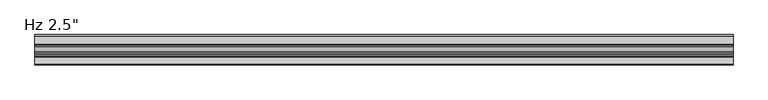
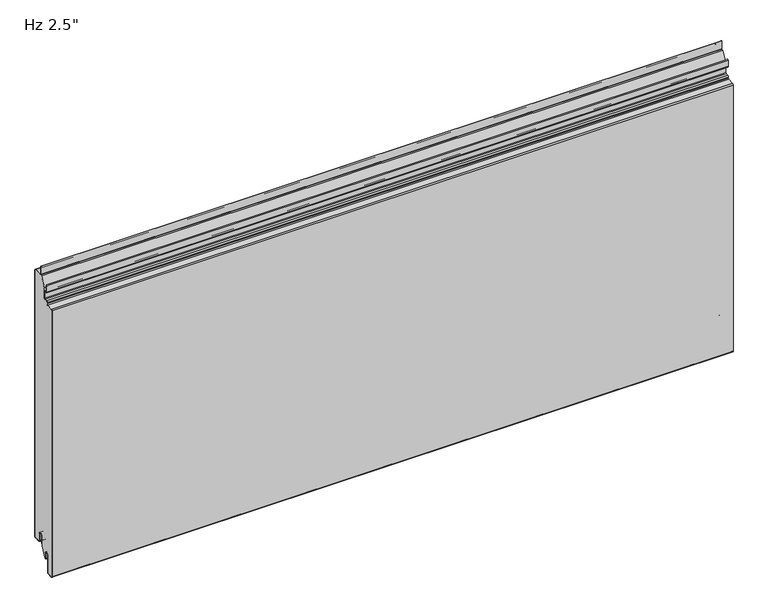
"""IFC4 building model written with IfcOpenShell, lengths in millimetres: plate geometry."""

from ifc_helpers import new_model, si_unit, point, frame, frame_2d, origin, place, context, project, spatial, polyline, circle_curve, ellipse_curve, trimmed, segment, composite_curve, outline, extrude, source, transform, mapped, element, save
from ifc_brep_helpers import plane_surface, cylinder_surface, revolved_surface, extruded_surface, advanced_brep


def plate_b7dfedd1(model_context):
    return source(origin(), model_context, "Body", "SolidModel", [
        extrude(outline(composite_curve([segment(trimmed(circle_curve(frame_2d((-21.43125, 19.05)), 4.96875), [point((-16.4625, 19.05))], [point((-26.4, 19.05))], True, "CARTESIAN"), True, "CONTINUOUS"), segment(polyline([(-26.4, 19.05), (-26.4, -3.1323422), (-36.5326309, -23.01875), (-38.1, -23.01875), (-38.1, -13.5080174), (-38.89375, -13.5080174), (-38.6875, -11.9205174)]), True, "CONTINUOUS"), segment(trimmed(circle_curve(frame_2d((-43.65625, -11.9205174)), 4.96875), [point((-38.6875, -11.9205174))], [point((-48.625, -11.9205174))], True, "CARTESIAN"), True, "CONTINUOUS"), segment(polyline([(-48.625, -11.9205174), (-48.625, -50.1038221)]), True, "CONTINUOUS"), segment(trimmed(circle_curve(frame_2d((-50.00625, -50.1038221)), 1.38125), [point((-48.625, -50.1038221))], [point((-49.933961, -51.4831791))], False, "CARTESIAN"), True, "CONTINUOUS"), segment(polyline([(-49.933961, -51.4831791), (-61.046461, -52.0655606)]), True, "CONTINUOUS"), segment(trimmed(circle_curve(frame_2d((-61.11875, -50.6862035)), 1.38125), [point((-61.046461, -52.0655606))], [point((-62.5, -50.6862035))], False, "CARTESIAN"), True, "CONTINUOUS"), segment(polyline([(-62.5, -50.6862035), (-62.5, 552.5572607)]), True, "CONTINUOUS"), segment(trimmed(circle_curve(frame_2d((-61.11875, 552.5572607)), 1.38125), [point((-62.5, 552.5572607))], [point((-61.191039, 553.9366177))], False, "CARTESIAN"), True, "CONTINUOUS"), segment(polyline([(-61.191039, 553.9366177), (-47.4895807, 554.6546807)]), True, "CONTINUOUS"), segment(trimmed(circle_curve(frame_2d((-47.625, 557.2386347)), 2.5875), [point((-47.4895807, 554.6546807))], [point((-45.0375, 557.2386347))], True, "CARTESIAN"), True, "CONTINUOUS"), segment(polyline([(-45.0375, 557.2386347), (-45.0375, 560.2824411)]), True, "CONTINUOUS"), segment(trimmed(circle_curve(frame_2d((-43.65625, 560.2824411)), 1.38125), [point((-45.0375, 560.2824411))], [point((-43.728539, 561.6617981))], False, "CARTESIAN"), True, "CONTINUOUS"), segment(polyline([(-43.728539, 561.6617981), (-37.9645807, 561.9638744)]), True, "CONTINUOUS"), segment(trimmed(circle_curve(frame_2d((-38.1, 564.5478283)), 2.5875), [point((-37.9645807, 561.9638744))], [point((-35.5125, 564.5478283))], True, "CARTESIAN"), True, "CONTINUOUS"), segment(polyline([(-35.5125, 564.5478283), (-35.5125, 586.9892934), (-24.9057308, 607.80625), (-2.38125, 607.80625)]), True, "CONTINUOUS"), segment(trimmed(circle_curve(frame_2d((-2.38125, 606.425)), 1.38125), [point((-2.38125, 607.80625))], [point((-1.0, 606.425))], False, "CARTESIAN"), True, "CONTINUOUS"), segment(polyline([(-1.0, 606.425), (-1.0, 3.175)]), True, "CONTINUOUS"), segment(trimmed(circle_curve(frame_2d((-2.38125, 3.175)), 1.38125), [point((-1.0, 3.175))], [point((-2.38125, 1.79375))], False, "CARTESIAN"), True, "CONTINUOUS"), segment(polyline([(-2.38125, 1.79375), (-15.08125, 1.79375)]), True, "CONTINUOUS"), segment(trimmed(circle_curve(frame_2d((-15.08125, 3.175)), 1.38125), [point((-15.08125, 1.79375))], [point((-16.4625, 3.175))], False, "CARTESIAN"), True, "CONTINUOUS"), segment(polyline([(-16.4625, 3.175), (-16.4625, 19.05)]), True, "CONTINUOUS")], self_intersect=False)), frame((-730.0, 0.0, 0.0), z_axis=(1.0, 0.0, 0.0), x_axis=(0.0, 1.0, 0.0)), (0.0, 0.0, 1.0), 1460.0),
        extrude(outline(composite_curve([segment(polyline([(-25.4, 0.79375), (-26.4, 0.79375), (-26.4, 19.05)]), True, "CONTINUOUS"), segment(trimmed(circle_curve(frame_2d((-21.43125, 19.05)), 4.96875), [point((-26.4, 19.05))], [point((-16.4625, 19.05))], False, "CARTESIAN"), True, "CONTINUOUS"), segment(polyline([(-16.4625, 19.05), (-16.4625, 3.175)]), True, "CONTINUOUS"), segment(trimmed(circle_curve(frame_2d((-15.08125, 3.175)), 1.38125), [point((-16.4625, 3.175))], [point((-15.08125, 1.79375))], True, "CARTESIAN"), True, "CONTINUOUS"), segment(polyline([(-15.08125, 1.79375), (-2.38125, 1.79375)]), True, "CONTINUOUS"), segment(trimmed(circle_curve(frame_2d((-2.38125, 3.175)), 1.38125), [point((-2.38125, 1.79375))], [point((-1.0, 3.175))], True, "CARTESIAN"), True, "CONTINUOUS"), segment(polyline([(-1.0, 3.175), (-1.0, 606.425)]), True, "CONTINUOUS"), segment(trimmed(circle_curve(frame_2d((-2.38125, 606.425)), 1.38125), [point((-1.0, 606.425))], [point((-2.38125, 607.80625))], True, "CARTESIAN"), True, "CONTINUOUS"), segment(polyline([(-2.38125, 607.80625), (-19.446875, 607.80625)]), True, "CONTINUOUS"), segment(trimmed(circle_curve(frame_2d((-19.446875, 610.39375)), 2.5875), [point((-19.446875, 607.80625))], [point((-22.034375, 610.39375))], False, "CARTESIAN"), True, "CONTINUOUS"), segment(polyline([(-22.034375, 610.39375), (-22.034375, 627.85625), (-21.034375, 627.85625), (-21.034375, 610.39375)]), True, "CONTINUOUS"), segment(trimmed(circle_curve(frame_2d((-19.446875, 610.39375)), 1.5875), [point((-21.034375, 610.39375))], [point((-19.446875, 608.80625))], True, "CARTESIAN"), True, "CONTINUOUS"), segment(polyline([(-19.446875, 608.80625), (-2.38125, 608.80625)]), True, "CONTINUOUS"), segment(trimmed(circle_curve(frame_2d((-2.38125, 606.425)), 2.38125), [point((-2.38125, 608.80625))], [point((0.0, 606.425))], False, "CARTESIAN"), True, "CONTINUOUS"), segment(polyline([(0.0, 606.425), (0.0, 3.175)]), True, "CONTINUOUS"), segment(trimmed(circle_curve(frame_2d((-2.38125, 3.175)), 2.38125), [point((0.0, 3.175))], [point((-2.38125, 0.79375))], False, "CARTESIAN"), True, "CONTINUOUS"), segment(polyline([(-2.38125, 0.79375), (-15.08125, 0.79375)]), True, "CONTINUOUS"), segment(trimmed(circle_curve(frame_2d((-15.08125, 3.175)), 2.38125), [point((-15.08125, 0.79375))], [point((-17.4625, 3.175))], False, "CARTESIAN"), True, "CONTINUOUS"), segment(polyline([(-17.4625, 3.175), (-17.4625, 19.05)]), True, "CONTINUOUS"), segment(trimmed(circle_curve(frame_2d((-21.43125, 19.05)), 3.96875), [point((-17.4625, 19.05))], [point((-25.4, 19.05))], True, "CARTESIAN"), True, "CONTINUOUS"), segment(polyline([(-25.4, 19.05), (-25.4, 0.79375)]), True, "CONTINUOUS")], self_intersect=False)), frame((-730.0, 0.0, 0.0), z_axis=(1.0, 0.0, 0.0), x_axis=(0.0, 1.0, 0.0)), (0.0, 0.0, 1.0), 1460.0),
        advanced_brep(
        [(-730.0, -38.1, -23.2314549), (-730.0, -39.6875, -23.2314549), (-730.0, -39.6875, -11.9205174), (-730.0, -47.625, -11.9205174), (-730.0, -47.625, -50.1038221), (-730.0, -49.881625, -52.4818086), (-730.0, -60.994125, -53.0641901), (-730.0, -63.5, -50.6862035), (-730.0, -63.5, 552.5572607), (-730.0, -61.243375, 554.9352473), (-730.0, -47.5419167, 555.6533103), (-730.0, -46.0375, 557.2386347), (-730.0, -46.0375, 560.2824411), (-730.0, -43.780875, 562.6604276), (-730.0, -38.0169167, 562.9625039), (-730.0, -36.5125, 564.5478283), (-730.0, -36.5125, 579.4232326), (-730.0, -38.1, 581.0107326), (-730.0, -42.2671875, 581.0107326), (-730.0, -44.6484375, 583.3919826), (-730.0, -44.6484375, 597.8836032), (-730.0, -42.8546875, 597.8836032), (-730.0, -42.8546875, 588.1544826), (-730.0, -43.6484375, 588.1544826), (-730.0, -43.6484375, 583.3919826), (-730.0, -42.2671875, 582.0107326), (-730.0, -38.1, 582.0107326), (-730.0, -35.5125, 579.4232326), (-730.0, -35.5125, 564.5478283), (-730.0, -37.9645807, 561.9638744), (-730.0, -43.728539, 561.6617981), (-730.0, -45.0375, 560.2824411), (-730.0, -45.0375, 557.2386347), (-730.0, -47.4895807, 554.6546807), (-730.0, -61.191039, 553.9366177), (-730.0, -62.5, 552.5572607), (-730.0, -62.5, -50.6862035), (-730.0, -61.046461, -52.0655606), (-730.0, -49.933961, -51.4831791), (-730.0, -48.625, -50.1038221), (-730.0, -48.625, -11.9205174), (-730.0, -38.6875, -11.9205174), (-730.0, -38.89375, -13.5080174), (-730.0, -38.1, -13.5080174), (730.0, -38.1, -23.2314549), (730.0, -38.1, -13.5080174), (730.0, -38.89375, -13.5080174), (730.0, -38.6875, -11.9205174), (730.0, -48.625, -11.9205174), (730.0, -48.625, -50.1038221), (730.0, -49.933961, -51.4831791), (730.0, -61.046461, -52.0655606), (730.0, -62.5, -50.6862035), (730.0, -62.5, 552.5572607), (730.0, -61.191039, 553.9366177), (730.0, -47.4895807, 554.6546807), (730.0, -45.0375, 557.2386347), (730.0, -45.0375, 560.2824411), (730.0, -43.728539, 561.6617981), (730.0, -37.9645807, 561.9638744), (730.0, -35.5125, 564.5478283), (730.0, -35.5125, 579.4232326), (730.0, -38.1, 582.0107326), (730.0, -42.2671875, 582.0107326), (730.0, -43.6484375, 583.3919826), (730.0, -43.6484375, 588.1544826), (730.0, -42.8546875, 588.1544826), (730.0, -42.8546875, 597.8836032), (730.0, -44.6484375, 597.8836032), (730.0, -44.6484375, 583.3919826), (730.0, -42.2671875, 581.0107326), (730.0, -38.1, 581.0107326), (730.0, -36.5125, 579.4232326), (730.0, -36.5125, 564.5478283), (730.0, -38.0169167, 562.9625039), (730.0, -43.780875, 562.6604276), (730.0, -46.0375, 560.2824411), (730.0, -46.0375, 557.2386347), (730.0, -47.5419167, 555.6533103), (730.0, -61.243375, 554.9352473), (730.0, -63.5, 552.5572607), (730.0, -63.5, -50.6862035), (730.0, -60.994125, -53.0641901), (730.0, -49.881625, -52.4818086), (730.0, -47.625, -50.1038221), (730.0, -47.625, -11.9205174), (730.0, -39.6875, -11.9205174), (730.0, -39.6875, -23.2314549)],
        [
            (0, 1, circle_curve(frame((-730.0, -38.89375, -23.2314549), z_axis=(-1.0, 0.0, 0.0), x_axis=(0.0, 0.0, 1.0)), 0.79375)),
            (1, 2),
            (2, 3, circle_curve(frame((-730.0, -43.65625, -11.9205174), z_axis=(1.0, 0.0, 0.0), x_axis=(0.0, 0.0, 1.0)), 3.96875)),
            (3, 4),
            (4, 5, circle_curve(frame((-730.0, -50.00625, -50.1038221), z_axis=(-1.0, 0.0, 0.0), x_axis=(0.0, 0.0, 1.0)), 2.38125)),
            (5, 6),
            (6, 7, circle_curve(frame((-730.0, -61.11875, -50.6862035), z_axis=(-1.0, 0.0, 0.0), x_axis=(0.0, 0.0, 1.0)), 2.38125)),
            (7, 8),
            (8, 9, circle_curve(frame((-730.0, -61.11875, 552.5572607), z_axis=(-1.0, 0.0, 0.0), x_axis=(0.0, 0.0, 1.0)), 2.38125)),
            (9, 10),
            (10, 11, circle_curve(frame((-730.0, -47.625, 557.2386347), z_axis=(1.0, 0.0, 0.0), x_axis=(0.0, 0.0, 1.0)), 1.5875)),
            (11, 12),
            (12, 13, circle_curve(frame((-730.0, -43.65625, 560.2824411), z_axis=(-1.0, 0.0, 0.0), x_axis=(0.0, 0.0, 1.0)), 2.38125)),
            (13, 14),
            (14, 15, circle_curve(frame((-730.0, -38.1, 564.5478283), z_axis=(1.0, 0.0, 0.0), x_axis=(0.0, 0.0, 1.0)), 1.5875)),
            (15, 16),
            (16, 17, circle_curve(frame((-730.0, -38.1, 579.4232326), z_axis=(1.0, 0.0, 0.0), x_axis=(0.0, 0.0, 1.0)), 1.5875)),
            (17, 18),
            (18, 19, circle_curve(frame((-730.0, -42.2671875, 583.3919826), z_axis=(-1.0, 0.0, 0.0), x_axis=(0.0, 0.0, 1.0)), 2.38125)),
            (19, 20),
            (20, 21, ellipse_curve(frame((-730.0, -43.7515625, 597.8836032), z_axis=(-1.0, 0.0, 0.0), x_axis=(0.0, 1.0, 0.0)), 0.896875, 0.7852275)),
            (21, 22),
            (22, 23),
            (23, 24),
            (24, 25, circle_curve(frame((-730.0, -42.2671875, 583.3919826), z_axis=(1.0, 0.0, 0.0), x_axis=(0.0, 0.0, 1.0)), 1.38125)),
            (25, 26),
            (26, 27, circle_curve(frame((-730.0, -38.1, 579.4232326), z_axis=(-1.0, 0.0, 0.0), x_axis=(0.0, 0.0, 1.0)), 2.5875)),
            (27, 28),
            (28, 29, circle_curve(frame((-730.0, -38.1, 564.5478283), z_axis=(-1.0, 0.0, 0.0), x_axis=(0.0, 0.0, 1.0)), 2.5875)),
            (29, 30),
            (30, 31, circle_curve(frame((-730.0, -43.65625, 560.2824411), z_axis=(1.0, 0.0, 0.0), x_axis=(0.0, 0.0, 1.0)), 1.38125)),
            (31, 32),
            (32, 33, circle_curve(frame((-730.0, -47.625, 557.2386347), z_axis=(-1.0, 0.0, 0.0), x_axis=(0.0, 0.0, 1.0)), 2.5875)),
            (33, 34),
            (34, 35, circle_curve(frame((-730.0, -61.11875, 552.5572607), z_axis=(1.0, 0.0, 0.0), x_axis=(0.0, 0.0, 1.0)), 1.38125)),
            (35, 36),
            (36, 37, circle_curve(frame((-730.0, -61.11875, -50.6862035), z_axis=(1.0, 0.0, 0.0), x_axis=(0.0, 0.0, 1.0)), 1.38125)),
            (37, 38),
            (38, 39, circle_curve(frame((-730.0, -50.00625, -50.1038221), z_axis=(1.0, 0.0, 0.0), x_axis=(0.0, 0.0, 1.0)), 1.38125)),
            (39, 40),
            (40, 41, circle_curve(frame((-730.0, -43.65625, -11.9205174), z_axis=(-1.0, 0.0, 0.0), x_axis=(0.0, 0.0, 1.0)), 4.96875)),
            (41, 42),
            (42, 43),
            (43, 0),
            (44, 45),
            (45, 46),
            (46, 47),
            (47, 48, circle_curve(frame((730.0, -43.65625, -11.9205174), z_axis=(1.0, 0.0, 0.0), x_axis=(0.0, 0.0, 1.0)), 4.96875)),
            (48, 49),
            (49, 50, circle_curve(frame((730.0, -50.00625, -50.1038221), z_axis=(-1.0, 0.0, 0.0), x_axis=(0.0, 0.0, 1.0)), 1.38125)),
            (50, 51),
            (51, 52, circle_curve(frame((730.0, -61.11875, -50.6862035), z_axis=(-1.0, 0.0, 0.0), x_axis=(0.0, 0.0, 1.0)), 1.38125)),
            (52, 53),
            (53, 54, circle_curve(frame((730.0, -61.11875, 552.5572607), z_axis=(-1.0, 0.0, 0.0), x_axis=(0.0, 0.0, 1.0)), 1.38125)),
            (54, 55),
            (55, 56, circle_curve(frame((730.0, -47.625, 557.2386347), z_axis=(1.0, 0.0, 0.0), x_axis=(0.0, 0.0, 1.0)), 2.5875)),
            (56, 57),
            (57, 58, circle_curve(frame((730.0, -43.65625, 560.2824411), z_axis=(-1.0, 0.0, 0.0), x_axis=(0.0, 0.0, 1.0)), 1.38125)),
            (58, 59),
            (59, 60, circle_curve(frame((730.0, -38.1, 564.5478283), z_axis=(1.0, 0.0, 0.0), x_axis=(0.0, 0.0, 1.0)), 2.5875)),
            (60, 61),
            (61, 62, circle_curve(frame((730.0, -38.1, 579.4232326), z_axis=(1.0, 0.0, 0.0), x_axis=(0.0, 0.0, 1.0)), 2.5875)),
            (62, 63),
            (63, 64, circle_curve(frame((730.0, -42.2671875, 583.3919826), z_axis=(-1.0, 0.0, 0.0), x_axis=(0.0, 0.0, 1.0)), 1.38125)),
            (64, 65),
            (65, 66),
            (66, 67),
            (67, 68, ellipse_curve(frame((730.0, -43.7515625, 597.8836032), z_axis=(1.0, 0.0, 0.0), x_axis=(0.0, 1.0, 0.0)), 0.896875, 0.7852275)),
            (68, 69),
            (69, 70, circle_curve(frame((730.0, -42.2671875, 583.3919826), z_axis=(1.0, 0.0, 0.0), x_axis=(0.0, 0.0, 1.0)), 2.38125)),
            (70, 71),
            (71, 72, circle_curve(frame((730.0, -38.1, 579.4232326), z_axis=(-1.0, 0.0, 0.0), x_axis=(0.0, 0.0, 1.0)), 1.5875)),
            (72, 73),
            (73, 74, circle_curve(frame((730.0, -38.1, 564.5478283), z_axis=(-1.0, 0.0, 0.0), x_axis=(0.0, 0.0, 1.0)), 1.5875)),
            (74, 75),
            (75, 76, circle_curve(frame((730.0, -43.65625, 560.2824411), z_axis=(1.0, 0.0, 0.0), x_axis=(0.0, 0.0, 1.0)), 2.38125)),
            (76, 77),
            (77, 78, circle_curve(frame((730.0, -47.625, 557.2386347), z_axis=(-1.0, 0.0, 0.0), x_axis=(0.0, 0.0, 1.0)), 1.5875)),
            (78, 79),
            (79, 80, circle_curve(frame((730.0, -61.11875, 552.5572607), z_axis=(1.0, 0.0, 0.0), x_axis=(0.0, 0.0, 1.0)), 2.38125)),
            (80, 81),
            (81, 82, circle_curve(frame((730.0, -61.11875, -50.6862035), z_axis=(1.0, 0.0, 0.0), x_axis=(0.0, 0.0, 1.0)), 2.38125)),
            (82, 83),
            (83, 84, circle_curve(frame((730.0, -50.00625, -50.1038221), z_axis=(1.0, 0.0, 0.0), x_axis=(0.0, 0.0, 1.0)), 2.38125)),
            (84, 85),
            (85, 86, circle_curve(frame((730.0, -43.65625, -11.9205174), z_axis=(-1.0, 0.0, 0.0), x_axis=(0.0, 0.0, 1.0)), 3.96875)),
            (86, 87),
            (87, 44, circle_curve(frame((730.0, -38.89375, -23.2314549), z_axis=(1.0, 0.0, 0.0), x_axis=(0.0, 0.0, 1.0)), 0.79375)),
            (23, 65),
            (64, 24),
            (28, 60),
            (59, 29),
            (58, 30),
            (57, 31),
            (56, 32),
            (55, 33),
            (54, 34),
            (37, 51),
            (50, 38),
            (49, 39),
            (48, 40),
            (43, 45),
            (44, 0),
            (87, 1),
            (86, 2),
            (85, 3),
            (84, 4),
            (83, 5),
            (82, 6),
            (9, 79),
            (78, 10),
            (77, 11),
            (76, 12),
            (75, 13),
            (74, 14),
            (73, 15),
            (72, 16),
            (71, 17),
            (70, 18),
            (69, 19),
            (27, 61),
            (26, 62),
            (25, 63),
            (21, 67),
            (66, 22),
            (20, 68),
            (41, 47),
            (46, 42),
            (53, 35),
            (52, 36),
            (81, 7),
            (80, 8),
        ],
        [
            plane_surface(frame((-730.0, -63.5, 304.8), z_axis=(-1.0, 0.0, 0.0), x_axis=(0.0, -1.0, 0.0))),
            plane_surface(frame((730.0, -63.5, 304.8), z_axis=(1.0, 0.0, 0.0), x_axis=(0.0, -1.0, 0.0))),
            plane_surface(frame((-730.0, -43.6484375, 583.3919826), z_axis=(0.0, 1.0, 0.0), x_axis=(1.0, 0.0, 0.0))),
            cylinder_surface(frame((-730.0, -38.1, 564.5478283), z_axis=(-1.0, 0.0, 0.0), x_axis=(0.0, 0.0, 1.0)), 2.5875),
            plane_surface(frame((-730.0, -43.728539, 561.6617981), z_axis=(0.0, 0.0523359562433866, -0.9986295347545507), x_axis=(1.0, 0.0, 0.0))),
            revolved_surface(polyline([(730.0, -43.65625, 561.6636911), (-730.0, -43.65625, 561.6636911)]), (-730.0, -43.65625, 560.2824411), (1.0, 0.0, 0.0)),
            plane_surface(frame((-730.0, -45.0375, 557.2386347), z_axis=(0.0, 1.0, 0.0), x_axis=(1.0, 0.0, 0.0))),
            cylinder_surface(frame((-730.0, -47.625, 557.2386347), z_axis=(-1.0, 0.0, 0.0), x_axis=(0.0, 0.0, 1.0)), 2.5875),
            plane_surface(frame((-730.0, -61.191039, 553.9366177), z_axis=(0.0, 0.05233595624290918, -0.9986295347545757), x_axis=(1.0, 0.0, 0.0))),
            plane_surface(frame((-730.0, -49.933961, -51.4831791), z_axis=(0.0, -0.05233595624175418, 0.9986295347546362), x_axis=(1.0, 0.0, 0.0))),
            revolved_surface(polyline([(730.0, -50.00625, -48.7225721), (-730.0, -50.00625, -48.7225721)]), (-730.0, -50.00625, -50.1038221), (1.0, 0.0, 0.0)),
            plane_surface(frame((-730.0, -48.625, -11.9205174), z_axis=(0.0, -1.0, 0.0), x_axis=(1.0, 0.0, 0.0))),
            plane_surface(frame((-730.0, -38.1, -23.2314549), z_axis=(0.0, 1.0, 0.0), x_axis=(1.0, 0.0, 0.0))),
            cylinder_surface(frame((-730.0, -38.89375, -23.2314549), z_axis=(-1.0, 0.0, 0.0), x_axis=(0.0, 0.0, 1.0)), 0.79375),
            plane_surface(frame((-730.0, -39.6875, -11.9205174), z_axis=(0.0, -1.0, 0.0), x_axis=(1.0, 0.0, 0.0))),
            revolved_surface(polyline([(730.0, -43.65625, -7.9517674), (-730.0, -43.65625, -7.9517674)]), (-730.0, -43.65625, -11.9205174), (1.0, 0.0, 0.0)),
            plane_surface(frame((-730.0, -47.625, -50.1038221), z_axis=(0.0, 1.0, 0.0), x_axis=(1.0, 0.0, 0.0))),
            cylinder_surface(frame((-730.0, -50.00625, -50.1038221), z_axis=(-1.0, 0.0, 0.0), x_axis=(0.0, 0.0, 1.0)), 2.38125),
            plane_surface(frame((-730.0, -60.994125, -53.0641901), z_axis=(0.0, 0.05233595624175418, -0.9986295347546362), x_axis=(1.0, 0.0, 0.0))),
            plane_surface(frame((-730.0, -47.5419167, 555.6533103), z_axis=(0.0, -0.052335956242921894, 0.998629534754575), x_axis=(1.0, 0.0, 0.0))),
            revolved_surface(polyline([(730.0, -47.625, 558.8261347), (-730.0, -47.625, 558.8261347)]), (-730.0, -47.625, 557.2386347), (1.0, 0.0, 0.0)),
            plane_surface(frame((-730.0, -46.0375, 560.2824411), z_axis=(0.0, -1.0, 0.0), x_axis=(1.0, 0.0, 0.0))),
            cylinder_surface(frame((-730.0, -43.65625, 560.2824411), z_axis=(-1.0, 0.0, 0.0), x_axis=(0.0, 0.0, 1.0)), 2.38125),
            plane_surface(frame((-730.0, -38.0169167, 562.9625039), z_axis=(0.0, -0.05233595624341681, 0.9986295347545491), x_axis=(1.0, 0.0, 0.0))),
            revolved_surface(polyline([(730.0, -38.1, 566.1353283), (-730.0, -38.1, 566.1353283)]), (-730.0, -38.1, 564.5478283), (1.0, 0.0, 0.0)),
            plane_surface(frame((-730.0, -36.5125, 579.4232326), z_axis=(0.0, -1.0, 0.0), x_axis=(1.0, 0.0, 0.0))),
            revolved_surface(polyline([(730.0, -38.1, 581.0107326), (-730.0, -38.1, 581.0107326)]), (-730.0, -38.1, 579.4232326), (1.0, 0.0, 0.0)),
            plane_surface(frame((-730.0, -42.2671875, 581.0107326), z_axis=(0.0, 0.0, -1.0), x_axis=(1.0, 0.0, 0.0))),
            cylinder_surface(frame((-730.0, -42.2671875, 583.3919826), z_axis=(-1.0, 0.0, 0.0), x_axis=(0.0, 0.0, 1.0)), 2.38125),
            plane_surface(frame((-730.0, -35.5125, 564.5478283), z_axis=(0.0, 1.0, 0.0), x_axis=(1.0, 0.0, 0.0))),
            cylinder_surface(frame((-730.0, -38.1, 579.4232326), z_axis=(-1.0, 0.0, 0.0), x_axis=(0.0, 0.0, 1.0)), 2.5875),
            plane_surface(frame((-730.0, -38.1, 582.0107326), z_axis=(0.0, 0.0, 1.0), x_axis=(1.0, 0.0, 0.0))),
            revolved_surface(polyline([(730.0, -42.2671875, 584.7732326), (-730.0, -42.2671875, 584.7732326)]), (-730.0, -42.2671875, 583.3919826), (1.0, 0.0, 0.0)),
            plane_surface(frame((-730.0, -42.8546875, 588.1544826), z_axis=(0.0, 1.0, 0.0), x_axis=(1.0, 0.0, 0.0))),
            extruded_surface(trimmed(ellipse_curve(frame((-730.0, -43.7515625, 597.8836032), z_axis=(1.0, 0.0, 0.0), x_axis=(0.0, 1.0, 0.0)), 0.896875, 0.7852275), [point((-730.0, -42.8546875, 597.8836032))], [point((-730.0, -44.6484375, 597.8836032))], True, "CARTESIAN"), (1460.0, 0.0, 0.0), 1460.0),
            plane_surface(frame((-730.0, -38.89375, -13.5080174), z_axis=(0.0, 0.9916655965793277, -0.12883844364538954), x_axis=(1.0, 0.0, 0.0))),
            cylinder_surface(frame((-730.0, -43.65625, -11.9205174), z_axis=(-1.0, 0.0, 0.0), x_axis=(0.0, 0.0, 1.0)), 4.96875),
            plane_surface(frame((-730.0, -38.1, -13.5080174), z_axis=(0.0, 0.0, 1.0), x_axis=(1.0, 0.0, 0.0))),
            plane_surface(frame((-730.0, -43.6484375, 588.1544826), z_axis=(0.0, 0.0, -1.0), x_axis=(1.0, 0.0, 0.0))),
            revolved_surface(polyline([(730.0, -61.11875, 553.9385107), (-730.0, -61.11875, 553.9385107)]), (-730.0, -61.11875, 552.5572607), (1.0, 0.0, 0.0)),
            plane_surface(frame((-730.0, -62.5, -50.6862035), z_axis=(0.0, 1.0, 0.0), x_axis=(1.0, 0.0, 0.0))),
            revolved_surface(polyline([(730.0, -61.11875, -49.304953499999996), (-730.0, -61.11875, -49.304953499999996)]), (-730.0, -61.11875, -50.6862035), (1.0, 0.0, 0.0)),
            cylinder_surface(frame((-730.0, -61.11875, -50.6862035), z_axis=(-1.0, 0.0, 0.0), x_axis=(0.0, 0.0, 1.0)), 2.38125),
            plane_surface(frame((-730.0, -63.5, 552.5572607), z_axis=(0.0, -1.0, 0.0), x_axis=(1.0, 0.0, 0.0))),
            cylinder_surface(frame((-730.0, -61.11875, 552.5572607), z_axis=(-1.0, 0.0, 0.0), x_axis=(0.0, 0.0, 1.0)), 2.38125),
            plane_surface(frame((-730.0, -44.6484375, 597.8836032), z_axis=(0.0, -1.0, 0.0), x_axis=(1.0, 0.0, 0.0))),
        ],
        [
            (0, [[1, 2, 3, 4, 5, 6, 7, 8, 9, 10, 11, 12, 13, 14, 15, 16, 17, 18, 19, 20, 21, 22, 23, 24, 25, 26, 27, 28, 29, 30, 31, 32, 33, 34, 35, 36, 37, 38, 39, 40, 41, 42, 43, 44]]),
            (1, [[45, 46, 47, 48, 49, 50, 51, 52, 53, 54, 55, 56, 57, 58, 59, 60, 61, 62, 63, 64, 65, 66, 67, 68, 69, 70, 71, 72, 73, 74, 75, 76, 77, 78, 79, 80, 81, 82, 83, 84, 85, 86, 87, 88]]),
            (2, [[89, -65, 90, -24]]),
            (3, [[91, -60, 92, -29]]),
            (4, [[-92, -59, 93, -30]]),
            (5, [[-93, -58, 94, -31]]),
            (6, [[-94, -57, 95, -32]]),
            (7, [[-95, -56, 96, -33]]),
            (8, [[-96, -55, 97, -34]]),
            (9, [[98, -51, 99, -38]]),
            (10, [[-99, -50, 100, -39]]),
            (11, [[-100, -49, 101, -40]]),
            (12, [[102, -45, 103, -44]]),
            (13, [[-103, -88, 104, -1]]),
            (14, [[-104, -87, 105, -2]]),
            (15, [[-105, -86, 106, -3]]),
            (16, [[-106, -85, 107, -4]]),
            (17, [[-107, -84, 108, -5]]),
            (18, [[-108, -83, 109, -6]]),
            (19, [[110, -79, 111, -10]]),
            (20, [[-111, -78, 112, -11]]),
            (21, [[-112, -77, 113, -12]]),
            (22, [[-113, -76, 114, -13]]),
            (23, [[-114, -75, 115, -14]]),
            (24, [[-115, -74, 116, -15]]),
            (25, [[-116, -73, 117, -16]]),
            (26, [[-117, -72, 118, -17]]),
            (27, [[-118, -71, 119, -18]]),
            (28, [[-119, -70, 120, -19]]),
            (29, [[121, -61, -91, -28]]),
            (30, [[122, -62, -121, -27]]),
            (31, [[123, -63, -122, -26]]),
            (32, [[-90, -64, -123, -25]]),
            (33, [[124, -67, 125, -22]]),
            (34, [[126, -68, -124, -21]]),
            (35, [[127, -47, 128, -42]]),
            (36, [[-101, -48, -127, -41]]),
            (37, [[-128, -46, -102, -43]]),
            (38, [[-125, -66, -89, -23]]),
            (39, [[-97, -54, 129, -35]]),
            (40, [[-129, -53, 130, -36]]),
            (41, [[-130, -52, -98, -37]]),
            (42, [[-109, -82, 131, -7]]),
            (43, [[-131, -81, 132, -8]]),
            (44, [[-132, -80, -110, -9]]),
            (45, [[-120, -69, -126, -20]]),
        ],
    ),
    ])


if __name__ == "__main__":
    model = new_model("IFC4")
    model_context = context("Model", 3, world=origin())
    ifc_project = project(units=[si_unit("LENGTHUNIT", "METRE", prefix="MILLI")], contexts=[model_context])
    site = spatial("IfcSite", under=ifc_project)
    building = spatial("IfcBuilding", under=site)
    placement = place(None, origin())
    plate_shape = plate_b7dfedd1(model_context)
    element("IfcPlate", 1, ObjectType="KIP-24-DWTR-R19-CP-Hz-F : Hz 2.5\"", at=placement, inside=building, context=model_context, shape_type="MappedRepresentation", body=[
        mapped(plate_shape, transform((0.0, 0.0, 0.0), x_axis=(1.0, 0.0, 0.0), y_axis=(0.0, 1.0, 0.0), z_axis=(0.0, 0.0, 1.0))),
    ])
    save(model, "model.ifc")
